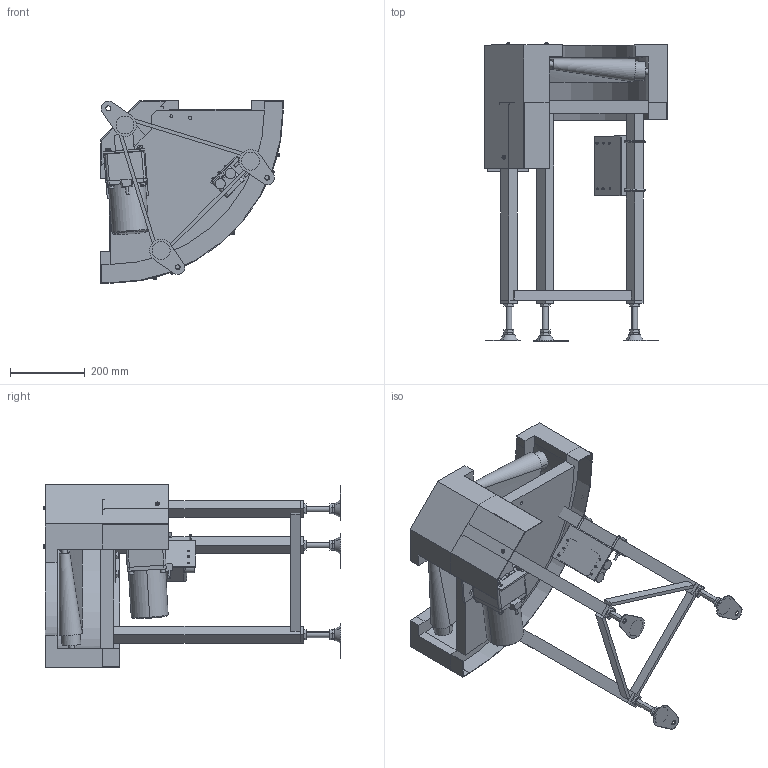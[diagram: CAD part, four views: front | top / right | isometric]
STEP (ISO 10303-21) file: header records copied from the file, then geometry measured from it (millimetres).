
FILE_DESCRIPTION( (''), '2;1');
FILE_NAME ('FBC-309-200-90°-L-K-60.stp','2025-01-29T13:50:23',(''),(''),'spGate 20.6.2 (****-****-****-****)','','');
FILE_SCHEMA (('AUTOMOTIVE_DESIGN'));
Length unit declared in the file: millimetre
Products named in the file (41): NewModel; TEMP_X_T-prt0; TEMP_X_T-prt1; TEMP_X_T-prt2; TEMP_X_T-prt3; TEMP_X_T-prt4; TEMP_X_T-prt5; TEMP_X_T-prt6; TEMP_X_T-prt7; TEMP_X_T-prt8; TEMP_X_T-prt9; TEMP_X_T-prt10; TEMP_X_T-prt11; TEMP_X_T-prt12; TEMP_X_T-prt13; TEMP_X_T-prt14; TEMP_X_T-prt15; TEMP_X_T-prt16; TEMP_X_T-prt17; TEMP_X_T-prt18; TEMP_X_T-prt19; TEMP_X_T-prt20; TEMP_X_T-prt21; TEMP_X_T-prt22; TEMP_X_T-prt23; TEMP_X_T-prt24; TEMP_X_T-prt25; TEMP_X_T-prt26; TEMP_X_T-prt27; TEMP_X_T-prt28; TEMP_X_T-prt29; TEMP_X_T-prt30; TEMP_X_T-prt31; TEMP_X_T-prt32; TEMP_X_T-prt33; TEMP_X_T-prt34; TEMP_X_T-prt35; TEMP_X_T-prt36; TEMP_X_T-prt37; TEMP_X_T-prt38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
Assembly tree (40 placements, depth 2):
  NewModel
    TEMP_X_T-prt0
    TEMP_X_T-prt1
    TEMP_X_T-prt2
    TEMP_X_T-prt3
    TEMP_X_T-prt4
    TEMP_X_T-prt5
    TEMP_X_T-prt6
    TEMP_X_T-prt7
    TEMP_X_T-prt8
    TEMP_X_T-prt9
    TEMP_X_T-prt10
    TEMP_X_T-prt11
    TEMP_X_T-prt12
    TEMP_X_T-prt13
    TEMP_X_T-prt14
    TEMP_X_T-prt15
    TEMP_X_T-prt16
    TEMP_X_T-prt17
    TEMP_X_T-prt18
    TEMP_X_T-prt19
    TEMP_X_T-prt20
    TEMP_X_T-prt21
    TEMP_X_T-prt22
    TEMP_X_T-prt23
    TEMP_X_T-prt24
    TEMP_X_T-prt25
    TEMP_X_T-prt26
    TEMP_X_T-prt27
    TEMP_X_T-prt28
    TEMP_X_T-prt29
    TEMP_X_T-prt30
    TEMP_X_T-prt31
    TEMP_X_T-prt32
    TEMP_X_T-prt33
    TEMP_X_T-prt34
    TEMP_X_T-prt35
    TEMP_X_T-prt36
    TEMP_X_T-prt37
    TEMP_X_T-prt38
    TEMP_X_T-prt39
Bounding box: 488 x 796.1 x 488 mm (x, y, z)
Volume: 23149751.2 mm3; surface area: 2120960.5 mm2
Topology: 40 solids, 40 shells, 1084 faces, 2543 edges, 1632 vertices
Faces by surface type: plane 618, cylinder 333, bspline 133
Entity records: 56758 total; most frequent: CARTESIAN_POINT 10490, ORIENTED_EDGE 5070, DIRECTION 4914, COLOUR_RGB 3659, PRESENTATION_STYLE_ASSIGNMENT 3659, STYLED_ITEM 3659, EDGE_CURVE 2535, DRAUGHTING_PRE_DEFINED_CURVE_FONT 2535
